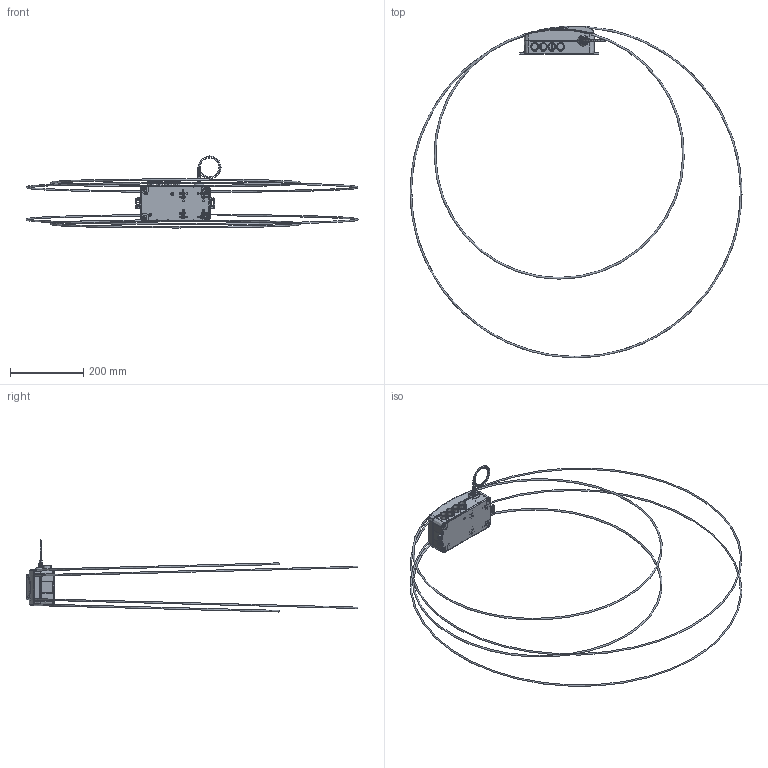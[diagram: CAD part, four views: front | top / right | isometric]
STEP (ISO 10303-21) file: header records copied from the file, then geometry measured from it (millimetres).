
FILE_DESCRIPTION((''),'2;1');
FILE_NAME('1','2014-06-05T',('tony'),(''),'PRO/ENGINEER BY PARAMETRIC TECHNOLOGY CORPORATION, 2008090','PRO/ENGINEER BY PARAMETRIC TECHNOLOGY CORPORATION, 2008090','');
FILE_SCHEMA(('CONFIG_CONTROL_DESIGN'));
Products named in the file (1): 1
Bounding box: 904.71 x 904.4 x 196.24 mm (x, y, z)
Surface area: 322198.3 mm2 (no closed solid volume)
Topology: 0 solids, 0 shells, 1005 faces, 5513 edges, 5486 vertices
Faces by surface type: bspline 937, torus 64, sphere 4
Entity records: 95554 total; most frequent: CARTESIAN_POINT 49373, DIRECTION 6855, TRIMMED_CURVE 5811, DEFINITIONAL_REPRESENTATION 5464, PCURVE 5464, COMPOSITE_CURVE_SEGMENT 5464, VECTOR 4903, LINE 4903
